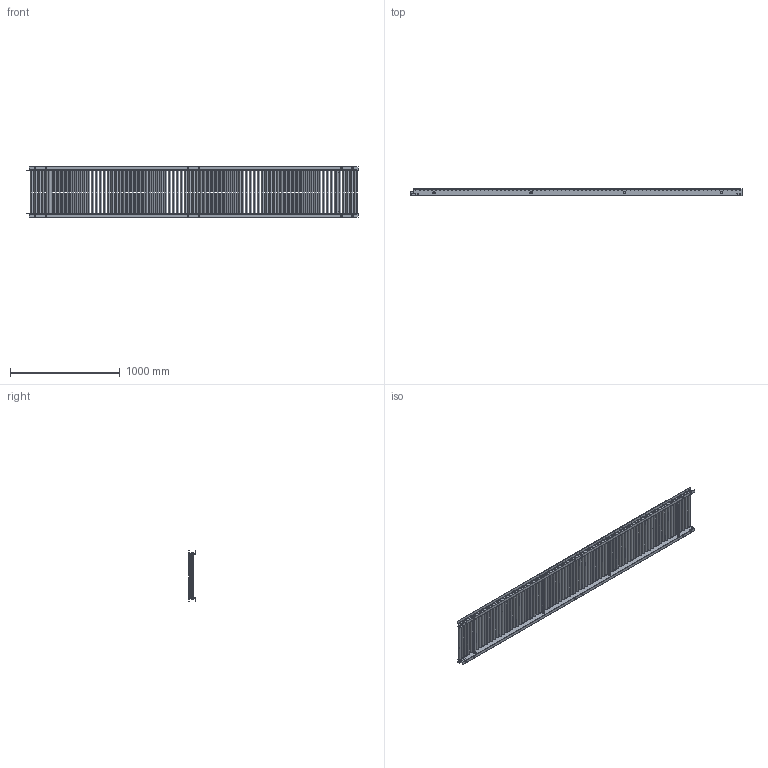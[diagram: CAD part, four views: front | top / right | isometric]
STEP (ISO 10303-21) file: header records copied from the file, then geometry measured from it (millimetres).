
FILE_DESCRIPTION (( 'STEP AP203' ), '1' );
FILE_NAME ('S-2512P.step', '2024-02-26T06:41:14', ( '' ), ( '' ), 'SwSTEP 2.0', 'SolidWorks 2023', '' );
FILE_SCHEMA (( 'CONFIG_CONTROL_DESIGN' ));
Length unit declared in the file: millimetre
Products named in the file (1): S-2512P
Bounding box: 3031.5 x 63.7 x 460 mm (x, y, z)
Volume: 16891227.6 mm3; surface area: 6526309.6 mm2
Topology: 186 solids, 186 shells, 4076 faces, 10198 edges, 6664 vertices
Faces by surface type: plane 2278, cylinder 1426, torus 324, cone 48
Entity records: 124793 total; most frequent: DIRECTION 23068, CARTESIAN_POINT 21611, ORIENTED_EDGE 20396, EDGE_CURVE 10198, AXIS2_PLACEMENT_3D 8921, VERTEX_POINT 6664, LINE 5226, VECTOR 5226
